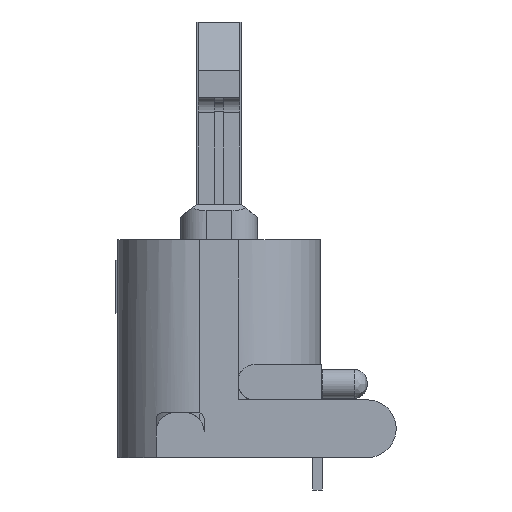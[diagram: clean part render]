
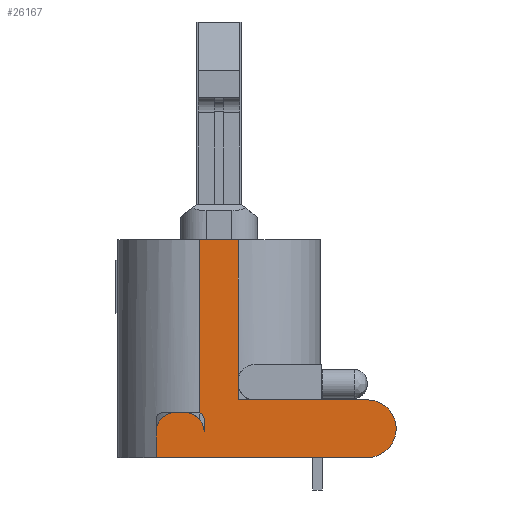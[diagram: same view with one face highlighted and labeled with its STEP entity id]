
A CAD part, left-side view. The second image highlights one B-rep face of the part: STEP entity #26167.
In plain terms, the highlighted planar face has unit normal (-1, 0, 0).
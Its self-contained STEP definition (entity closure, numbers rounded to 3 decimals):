
#507 = EDGE_CURVE ( 'NONE', #12291, #11700, #9779, .T. ) ;
#833 = CARTESIAN_POINT ( 'NONE',  ( -4.106, 0.659, 8.14 ) ) ;
#916 = DIRECTION ( 'NONE',  ( 0., 0., -1. ) ) ;
#982 = ORIENTED_EDGE ( 'NONE', *, *, #24377, .F. ) ;
#1022 = VERTEX_POINT ( 'NONE', #2025 ) ;
#1371 = VERTEX_POINT ( 'NONE', #5198 ) ;
#1462 = DIRECTION ( 'NONE',  ( 0., 1., 0. ) ) ;
#2025 = CARTESIAN_POINT ( 'NONE',  ( -4.106, 0.659, 8.14 ) ) ;
#3615 = DIRECTION ( 'NONE',  ( 0., 0., -1. ) ) ;
#3856 = DIRECTION ( 'NONE',  ( 0., 1., 0. ) ) ;
#3892 = VERTEX_POINT ( 'NONE', #26781 ) ;
#3910 = CARTESIAN_POINT ( 'NONE',  ( -4.106, 0.659, 8.44 ) ) ;
#4110 = LINE ( 'NONE', #20254, #17667 ) ;
#4222 = ORIENTED_EDGE ( 'NONE', *, *, #25638, .T. ) ;
#4530 = VERTEX_POINT ( 'NONE', #13998 ) ;
#4595 = EDGE_CURVE ( 'NONE', #11166, #5693, #26033, .T. ) ;
#5198 = CARTESIAN_POINT ( 'NONE',  ( -4.106, 1.189, 7.64 ) ) ;
#5324 = VECTOR ( 'NONE', #6777, 1000. ) ;
#5380 = ORIENTED_EDGE ( 'NONE', *, *, #16536, .F. ) ;
#5551 = VECTOR ( 'NONE', #19129, 1000. ) ;
#5693 = VERTEX_POINT ( 'NONE', #24936 ) ;
#5724 = DIRECTION ( 'NONE',  ( 0., 1., 0. ) ) ;
#5787 = CARTESIAN_POINT ( 'NONE',  ( -4.106, 1.259, 10.64 ) ) ;
#6216 = CIRCLE ( 'NONE', #19209, 0.45 ) ;
#6666 = VERTEX_POINT ( 'NONE', #20501 ) ;
#6777 = DIRECTION ( 'NONE',  ( 0., 0., 1. ) ) ;
#7005 = CARTESIAN_POINT ( 'NONE',  ( -4.106, 0.659, 8.39 ) ) ;
#7107 = VECTOR ( 'NONE', #3615, 1000. ) ;
#7195 = CARTESIAN_POINT ( 'NONE',  ( -4.106, 1.939, 7.24 ) ) ;
#7960 = CIRCLE ( 'NONE', #25715, 0.3 ) ;
#8078 = DIRECTION ( 'NONE',  ( 1., 0., 0. ) ) ;
#8591 = VERTEX_POINT ( 'NONE', #3910 ) ;
#8806 = CARTESIAN_POINT ( 'NONE',  ( -4.106, 1.939, 7.24 ) ) ;
#9274 = EDGE_CURVE ( 'NONE', #24843, #1371, #24276, .T. ) ;
#9606 = CARTESIAN_POINT ( 'NONE',  ( -4.106, 1.639, 7.64 ) ) ;
#9779 = LINE ( 'NONE', #26579, #21615 ) ;
#9782 = ORIENTED_EDGE ( 'NONE', *, *, #25487, .F. ) ;
#10125 = ORIENTED_EDGE ( 'NONE', *, *, #21364, .F. ) ;
#10444 = VERTEX_POINT ( 'NONE', #7195 ) ;
#10669 = DIRECTION ( 'NONE',  ( 0., -1., 0. ) ) ;
#10894 = ORIENTED_EDGE ( 'NONE', *, *, #9274, .T. ) ;
#10946 = DIRECTION ( 'NONE',  ( -1., 0., 0. ) ) ;
#11166 = VERTEX_POINT ( 'NONE', #20005 ) ;
#11182 = VECTOR ( 'NONE', #916, 1000. ) ;
#11608 = CARTESIAN_POINT ( 'NONE',  ( -4.106, 0.659, 8.39 ) ) ;
#11651 = EDGE_CURVE ( 'NONE', #3892, #4530, #6216, .T. ) ;
#11685 = LINE ( 'NONE', #15360, #23499 ) ;
#11700 = VERTEX_POINT ( 'NONE', #14374 ) ;
#11735 = ORIENTED_EDGE ( 'NONE', *, *, #11651, .T. ) ;
#12203 = DIRECTION ( 'NONE',  ( 0., 0., -1. ) ) ;
#12291 = VERTEX_POINT ( 'NONE', #23939 ) ;
#12470 = CIRCLE ( 'NONE', #15504, 0.1 ) ;
#12685 = CARTESIAN_POINT ( 'NONE',  ( -4.106, 1.289, 7.84 ) ) ;
#13198 = ORIENTED_EDGE ( 'NONE', *, *, #18443, .T. ) ;
#13713 = VERTEX_POINT ( 'NONE', #7005 ) ;
#13920 = LINE ( 'NONE', #11608, #11182 ) ;
#13998 = CARTESIAN_POINT ( 'NONE',  ( -4.106, -1.361, 8.14 ) ) ;
#14374 = CARTESIAN_POINT ( 'NONE',  ( -4.106, 1.489, 7.94 ) ) ;
#14858 = EDGE_CURVE ( 'NONE', #13713, #1022, #13920, .T. ) ;
#15333 = DIRECTION ( 'NONE',  ( -1., 0., 0. ) ) ;
#15360 = CARTESIAN_POINT ( 'NONE',  ( -4.106, 1.259, 7.935 ) ) ;
#15504 = AXIS2_PLACEMENT_3D ( 'NONE', #12685, #25001, #17303 ) ;
#15764 = CARTESIAN_POINT ( 'NONE',  ( -4.106, 0.659, 10.64 ) ) ;
#15814 = ORIENTED_EDGE ( 'NONE', *, *, #16262, .T. ) ;
#15935 = CARTESIAN_POINT ( 'NONE',  ( -4.106, 1.939, 7.64 ) ) ;
#15970 = LINE ( 'NONE', #20419, #7107 ) ;
#16262 = EDGE_CURVE ( 'NONE', #6666, #24843, #12470, .T. ) ;
#16373 = VERTEX_POINT ( 'NONE', #15935 ) ;
#16536 = EDGE_CURVE ( 'NONE', #3892, #10444, #4110, .T. ) ;
#16553 = AXIS2_PLACEMENT_3D ( 'NONE', #9606, #15333, #17765 ) ;
#16731 = VECTOR ( 'NONE', #5724, 1000. ) ;
#16823 = DIRECTION ( 'NONE',  ( 0., 0., -1. ) ) ;
#16870 = EDGE_CURVE ( 'NONE', #6666, #5693, #11685, .T. ) ;
#17303 = DIRECTION ( 'NONE',  ( 0., -0.3, 0.954 ) ) ;
#17667 = VECTOR ( 'NONE', #3856, 1000. ) ;
#17765 = DIRECTION ( 'NONE',  ( 0., 0., 1. ) ) ;
#17804 = ORIENTED_EDGE ( 'NONE', *, *, #16870, .F. ) ;
#17994 = FACE_OUTER_BOUND ( 'NONE', #19816, .T. ) ;
#18319 = DIRECTION ( 'NONE',  ( 0., 0., -1. ) ) ;
#18443 = EDGE_CURVE ( 'NONE', #1371, #11700, #7960, .T. ) ;
#18677 = EDGE_CURVE ( 'NONE', #11166, #8591, #15970, .T. ) ;
#18710 = CARTESIAN_POINT ( 'NONE',  ( -4.106, -1.361, 7.69 ) ) ;
#19117 = LINE ( 'NONE', #8806, #5324 ) ;
#19129 = DIRECTION ( 'NONE',  ( 0., -1., 0. ) ) ;
#19209 = AXIS2_PLACEMENT_3D ( 'NONE', #18710, #20476, #12203 ) ;
#19399 = LINE ( 'NONE', #833, #5551 ) ;
#19496 = CARTESIAN_POINT ( 'NONE',  ( -4.106, 1.189, 7.84 ) ) ;
#19577 = CARTESIAN_POINT ( 'NONE',  ( -4.106, 1.189, 7.84 ) ) ;
#19816 = EDGE_LOOP ( 'NONE', ( #15814, #10894, #13198, #20551, #4222, #982, #5380, #11735, #10125, #23873, #9782, #25684, #24722, #17804 ) ) ;
#20005 = CARTESIAN_POINT ( 'NONE',  ( -4.106, 0.659, 10.64 ) ) ;
#20254 = CARTESIAN_POINT ( 'NONE',  ( -4.106, -1.361, 7.24 ) ) ;
#20419 = CARTESIAN_POINT ( 'NONE',  ( -4.106, 0.659, 10.64 ) ) ;
#20476 = DIRECTION ( 'NONE',  ( -1., 0., 0. ) ) ;
#20501 = CARTESIAN_POINT ( 'NONE',  ( -4.106, 1.259, 7.935 ) ) ;
#20551 = ORIENTED_EDGE ( 'NONE', *, *, #507, .F. ) ;
#20851 = CARTESIAN_POINT ( 'NONE',  ( -4.106, 1.489, 7.64 ) ) ;
#20882 = CARTESIAN_POINT ( 'NONE',  ( -4.106, 0.659, 8.44 ) ) ;
#21326 = AXIS2_PLACEMENT_3D ( 'NONE', #5787, #8078, #1462 ) ;
#21364 = EDGE_CURVE ( 'NONE', #1022, #4530, #19399, .T. ) ;
#21615 = VECTOR ( 'NONE', #22386, 1000. ) ;
#22386 = DIRECTION ( 'NONE',  ( 0., -1., 0. ) ) ;
#23320 = LINE ( 'NONE', #20882, #23472 ) ;
#23472 = VECTOR ( 'NONE', #16823, 1000. ) ;
#23499 = VECTOR ( 'NONE', #23616, 1000. ) ;
#23538 = CIRCLE ( 'NONE', #16553, 0.3 ) ;
#23616 = DIRECTION ( 'NONE',  ( 0., 0., 1. ) ) ;
#23873 = ORIENTED_EDGE ( 'NONE', *, *, #14858, .F. ) ;
#23939 = CARTESIAN_POINT ( 'NONE',  ( -4.106, 1.639, 7.94 ) ) ;
#24079 = PLANE ( 'NONE',  #21326 ) ;
#24276 = LINE ( 'NONE', #19577, #25459 ) ;
#24377 = EDGE_CURVE ( 'NONE', #10444, #16373, #19117, .T. ) ;
#24722 = ORIENTED_EDGE ( 'NONE', *, *, #4595, .T. ) ;
#24843 = VERTEX_POINT ( 'NONE', #19496 ) ;
#24936 = CARTESIAN_POINT ( 'NONE',  ( -4.106, 1.259, 10.64 ) ) ;
#25001 = DIRECTION ( 'NONE',  ( 1., 0., 0. ) ) ;
#25459 = VECTOR ( 'NONE', #18319, 1000. ) ;
#25487 = EDGE_CURVE ( 'NONE', #8591, #13713, #23320, .T. ) ;
#25638 = EDGE_CURVE ( 'NONE', #12291, #16373, #23538, .T. ) ;
#25684 = ORIENTED_EDGE ( 'NONE', *, *, #18677, .F. ) ;
#25715 = AXIS2_PLACEMENT_3D ( 'NONE', #20851, #10946, #10669 ) ;
#26033 = LINE ( 'NONE', #15764, #16731 ) ;
#26167 = ADVANCED_FACE ( 'NONE', ( #17994 ), #24079, .F. ) ;
#26579 = CARTESIAN_POINT ( 'NONE',  ( -4.106, 1.639, 7.94 ) ) ;
#26781 = CARTESIAN_POINT ( 'NONE',  ( -4.106, -1.361, 7.24 ) ) ;
